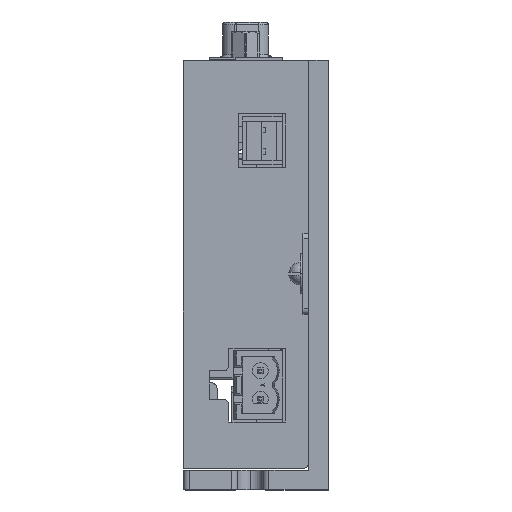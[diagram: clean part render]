
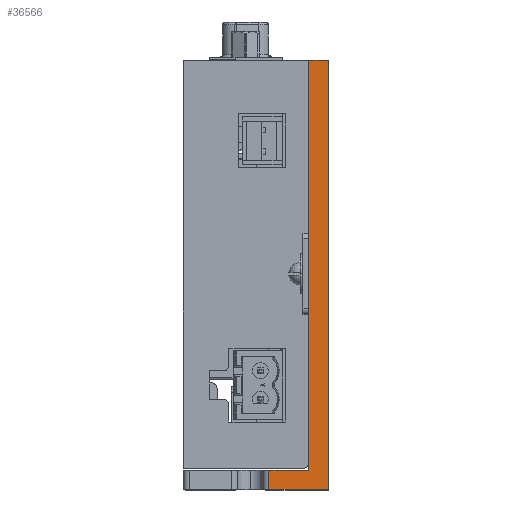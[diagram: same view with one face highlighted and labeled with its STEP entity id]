
A CAD part, left-side view. The second image highlights one B-rep face of the part: STEP entity #36566.
In plain terms, the highlighted planar face has unit normal (-1, 0, 0).
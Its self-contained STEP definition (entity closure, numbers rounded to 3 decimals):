
#174 = CARTESIAN_POINT ( 'NONE',  ( -75.764, -9.046, 160.928 ) ) ;
#771 = VECTOR ( 'NONE', #117979, 1000. ) ;
#908 = ORIENTED_EDGE ( 'NONE', *, *, #112981, .T. ) ;
#2545 = LINE ( 'NONE', #73567, #135702 ) ;
#4927 = LINE ( 'NONE', #76783, #61345 ) ;
#6914 = DIRECTION ( 'NONE',  ( 0., 0., -1. ) ) ;
#8182 = FACE_OUTER_BOUND ( 'NONE', #139019, .T. ) ;
#11510 = LINE ( 'NONE', #78520, #47399 ) ;
#11527 = ORIENTED_EDGE ( 'NONE', *, *, #38417, .T. ) ;
#14330 = DIRECTION ( 'NONE',  ( 0., 0., 1. ) ) ;
#14915 = CARTESIAN_POINT ( 'NONE',  ( -75.764, 12.954, 113.678 ) ) ;
#16114 = ORIENTED_EDGE ( 'NONE', *, *, #124544, .T. ) ;
#17342 = VECTOR ( 'NONE', #29593, 1000. ) ;
#17433 = CARTESIAN_POINT ( 'NONE',  ( -75.764, -9.046, 117.178 ) ) ;
#17851 = EDGE_CURVE ( 'NONE', #116865, #52804, #92928, .T. ) ;
#19063 = CARTESIAN_POINT ( 'NONE',  ( -75.764, -4.046, 117.168 ) ) ;
#21047 = VECTOR ( 'NONE', #127047, 1000. ) ;
#21351 = DIRECTION ( 'NONE',  ( 0., 1., 0. ) ) ;
#21832 = CARTESIAN_POINT ( 'NONE',  ( -75.764, -12.546, 189.178 ) ) ;
#21971 = CARTESIAN_POINT ( 'NONE',  ( -75.764, -9.046, 171.428 ) ) ;
#23994 = VERTEX_POINT ( 'NONE', #114433 ) ;
#27538 = CARTESIAN_POINT ( 'NONE',  ( -75.764, -2.046, 113.678 ) ) ;
#28091 = VECTOR ( 'NONE', #6914, 1000. ) ;
#29593 = DIRECTION ( 'NONE',  ( 0., 0., 1. ) ) ;
#30653 = LINE ( 'NONE', #82436, #73166 ) ;
#31373 = LINE ( 'NONE', #21832, #135396 ) ;
#33711 = ORIENTED_EDGE ( 'NONE', *, *, #40332, .F. ) ;
#36566 = ADVANCED_FACE ( 'NONE', ( #8182 ), #69579, .T. ) ;
#37965 = LINE ( 'NONE', #39643, #39730 ) ;
#38417 = EDGE_CURVE ( 'NONE', #132648, #98844, #31373, .T. ) ;
#39329 = CARTESIAN_POINT ( 'NONE',  ( -75.764, -4.046, 117.178 ) ) ;
#39643 = CARTESIAN_POINT ( 'NONE',  ( -75.764, -12.546, 113.678 ) ) ;
#39730 = VECTOR ( 'NONE', #70963, 1000. ) ;
#40332 = EDGE_CURVE ( 'NONE', #119772, #23994, #2545, .T. ) ;
#40460 = VERTEX_POINT ( 'NONE', #174 ) ;
#43808 = VERTEX_POINT ( 'NONE', #17433 ) ;
#44222 = CARTESIAN_POINT ( 'NONE',  ( -75.764, -9.056, 171.428 ) ) ;
#47399 = VECTOR ( 'NONE', #134394, 1000. ) ;
#48756 = EDGE_CURVE ( 'NONE', #43808, #72385, #68721, .T. ) ;
#50154 = DIRECTION ( 'NONE',  ( 0., 0., -1. ) ) ;
#50304 = CARTESIAN_POINT ( 'NONE',  ( -75.764, -9.046, 117.178 ) ) ;
#52052 = ORIENTED_EDGE ( 'NONE', *, *, #54204, .T. ) ;
#52413 = LINE ( 'NONE', #14915, #113708 ) ;
#52804 = VERTEX_POINT ( 'NONE', #21971 ) ;
#54204 = EDGE_CURVE ( 'NONE', #88791, #90332, #52413, .T. ) ;
#55450 = ORIENTED_EDGE ( 'NONE', *, *, #100438, .T. ) ;
#56563 = CARTESIAN_POINT ( 'NONE',  ( -75.764, -2.046, 117.168 ) ) ;
#58044 = CARTESIAN_POINT ( 'NONE',  ( -75.764, -9.046, 189.178 ) ) ;
#61345 = VECTOR ( 'NONE', #120703, 1000. ) ;
#61705 = LINE ( 'NONE', #19063, #17342 ) ;
#62178 = EDGE_CURVE ( 'NONE', #23994, #72385, #61705, .T. ) ;
#65251 = ORIENTED_EDGE ( 'NONE', *, *, #17851, .F. ) ;
#68721 = LINE ( 'NONE', #50304, #21047 ) ;
#69579 = PLANE ( 'NONE',  #135936 ) ;
#70963 = DIRECTION ( 'NONE',  ( 0., 0., 1. ) ) ;
#72385 = VERTEX_POINT ( 'NONE', #39329 ) ;
#73166 = VECTOR ( 'NONE', #50154, 1000. ) ;
#73567 = CARTESIAN_POINT ( 'NONE',  ( -75.764, 6.454, 117.168 ) ) ;
#75494 = CARTESIAN_POINT ( 'NONE',  ( -75.764, -9.056, 171.428 ) ) ;
#76783 = CARTESIAN_POINT ( 'NONE',  ( -75.764, -9.046, 189.178 ) ) ;
#78092 = CARTESIAN_POINT ( 'NONE',  ( -75.764, -12.546, 189.178 ) ) ;
#78520 = CARTESIAN_POINT ( 'NONE',  ( -75.764, -9.056, 160.928 ) ) ;
#80490 = DIRECTION ( 'NONE',  ( -1., 0., 0. ) ) ;
#82436 = CARTESIAN_POINT ( 'NONE',  ( -75.764, -9.046, 189.178 ) ) ;
#86364 = LINE ( 'NONE', #113221, #98085 ) ;
#88791 = VERTEX_POINT ( 'NONE', #134475 ) ;
#90332 = VERTEX_POINT ( 'NONE', #109101 ) ;
#92248 = DIRECTION ( 'NONE',  ( 0., 1., 0. ) ) ;
#92928 = LINE ( 'NONE', #75494, #771 ) ;
#97838 = LINE ( 'NONE', #27538, #28091 ) ;
#98085 = VECTOR ( 'NONE', #92248, 1000. ) ;
#98844 = VERTEX_POINT ( 'NONE', #58044 ) ;
#100438 = EDGE_CURVE ( 'NONE', #90332, #132648, #37965, .T. ) ;
#102792 = ORIENTED_EDGE ( 'NONE', *, *, #132311, .T. ) ;
#104182 = VERTEX_POINT ( 'NONE', #107922 ) ;
#107922 = CARTESIAN_POINT ( 'NONE',  ( -75.764, -9.056, 160.928 ) ) ;
#109101 = CARTESIAN_POINT ( 'NONE',  ( -75.764, -12.546, 113.678 ) ) ;
#112981 = EDGE_CURVE ( 'NONE', #119772, #88791, #97838, .T. ) ;
#113221 = CARTESIAN_POINT ( 'NONE',  ( -75.764, -9.056, 160.928 ) ) ;
#113708 = VECTOR ( 'NONE', #114406, 1000. ) ;
#114406 = DIRECTION ( 'NONE',  ( 0., -1., 0. ) ) ;
#114433 = CARTESIAN_POINT ( 'NONE',  ( -75.764, -4.046, 117.168 ) ) ;
#116578 = ORIENTED_EDGE ( 'NONE', *, *, #137539, .T. ) ;
#116865 = VERTEX_POINT ( 'NONE', #44222 ) ;
#117979 = DIRECTION ( 'NONE',  ( 0., 1., 0. ) ) ;
#118512 = ORIENTED_EDGE ( 'NONE', *, *, #119280, .F. ) ;
#119280 = EDGE_CURVE ( 'NONE', #104182, #116865, #11510, .T. ) ;
#119772 = VERTEX_POINT ( 'NONE', #56563 ) ;
#120703 = DIRECTION ( 'NONE',  ( 0., 0., -1. ) ) ;
#124432 = CARTESIAN_POINT ( 'NONE',  ( -75.764, -12.546, 113.678 ) ) ;
#124544 = EDGE_CURVE ( 'NONE', #98844, #52804, #4927, .T. ) ;
#127047 = DIRECTION ( 'NONE',  ( 0., 1., 0. ) ) ;
#127883 = ORIENTED_EDGE ( 'NONE', *, *, #62178, .F. ) ;
#128463 = DIRECTION ( 'NONE',  ( 0., -1., 0. ) ) ;
#132311 = EDGE_CURVE ( 'NONE', #40460, #43808, #30653, .T. ) ;
#132648 = VERTEX_POINT ( 'NONE', #78092 ) ;
#134394 = DIRECTION ( 'NONE',  ( 0., 0., 1. ) ) ;
#134475 = CARTESIAN_POINT ( 'NONE',  ( -75.764, -2.046, 113.678 ) ) ;
#135396 = VECTOR ( 'NONE', #21351, 1000. ) ;
#135702 = VECTOR ( 'NONE', #128463, 1000. ) ;
#135936 = AXIS2_PLACEMENT_3D ( 'NONE', #124432, #80490, #14330 ) ;
#136374 = ORIENTED_EDGE ( 'NONE', *, *, #48756, .T. ) ;
#137539 = EDGE_CURVE ( 'NONE', #104182, #40460, #86364, .T. ) ;
#139019 = EDGE_LOOP ( 'NONE', ( #116578, #102792, #136374, #127883, #33711, #908, #52052, #55450, #11527, #16114, #65251, #118512 ) ) ;
